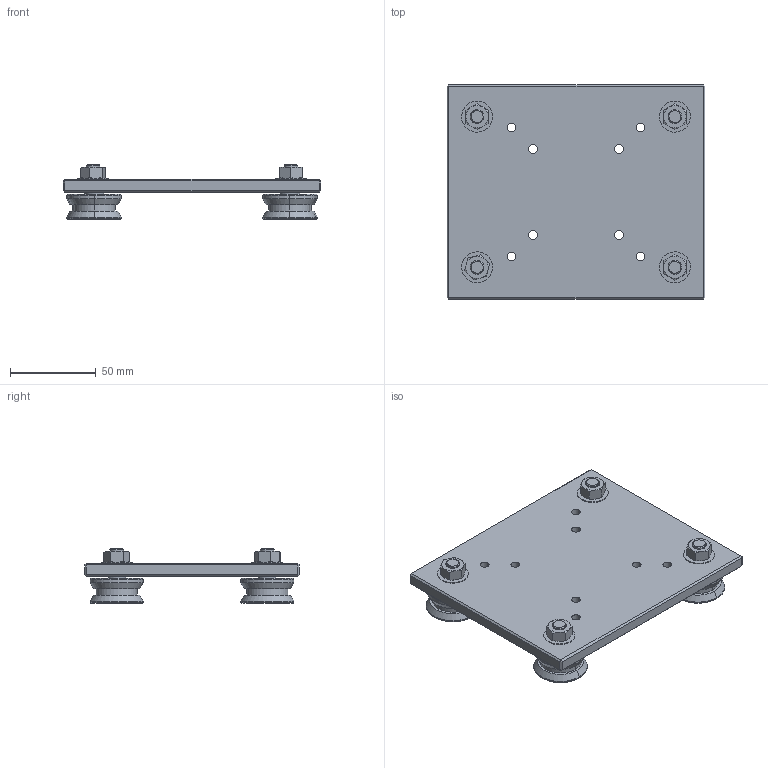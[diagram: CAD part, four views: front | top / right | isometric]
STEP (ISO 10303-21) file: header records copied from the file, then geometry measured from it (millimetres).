
FILE_DESCRIPTION (( 'STEP AP203' ), '1' );
FILE_NAME ('Laufwagen LW8.STEP', '2005-06-07T09:31:37', ( ' ' ), ( ' ' ), 'SwSTEP 2.0', 'SolidWorks 2005143', '' );
FILE_SCHEMA (( 'CONFIG_CONTROL_DESIGN' ));
Length unit declared in the file: millimetre
Products named in the file (1): Laufwagen LW8
Bounding box: 150 x 125 x 31.5 mm (x, y, z)
Volume: 182974.2 mm3; surface area: 55688.5 mm2
Topology: 1 solids, 5 shells, 294 faces, 632 edges, 384 vertices
Faces by surface type: plane 118, cone 88, cylinder 88
Entity records: 8373 total; most frequent: CARTESIAN_POINT 1855, DIRECTION 1390, ORIENTED_EDGE 1264, EDGE_CURVE 632, AXIS2_PLACEMENT_3D 559, VERTEX_POINT 384, EDGE_LOOP 354, ADVANCED_FACE 294
